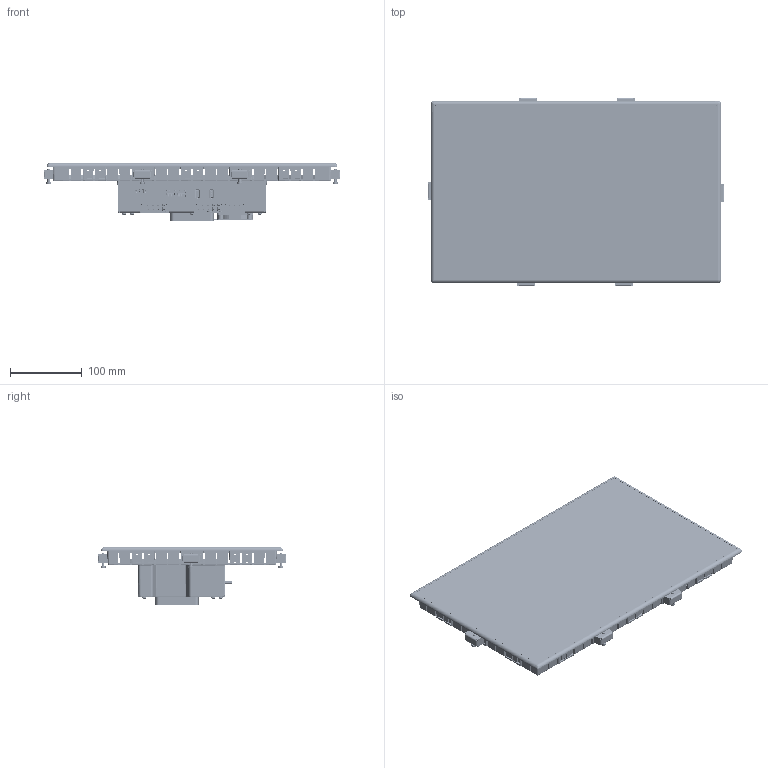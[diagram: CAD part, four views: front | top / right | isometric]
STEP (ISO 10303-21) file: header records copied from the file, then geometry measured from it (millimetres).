
FILE_DESCRIPTION(/* description */ (''),/* implementation_level */ '2;1');
FILE_NAME(/* name */ 'B-Primis DC-Pi Prime 15_S04.stp',/* time_stamp */ '2025-12-02T14:07:38+01:00',/* author */ ('Werres'),/* organization */ (''),/* preprocessor_version */ 'ST-DEVELOPER v20.1',/* originating_system */ 'Autodesk Inventor 2026',/* authorisation */ '');
FILE_SCHEMA (('AUTOMOTIVE_DESIGN { 1 0 10303 214 3 1 1 }'));
Products named in the file (1): B-Primis DC-Pi Prime 15_S04_Vereinfacht_
Bounding box: 412.98 x 262.01 x 80.8 mm (x, y, z)
Volume: 720918.6 mm3; surface area: 721290.9 mm2
Topology: 13 solids, 84 shells, 13720 faces, 39335 edges, 25604 vertices
Faces by surface type: plane 9654, cylinder 3475, cone 353, bspline 118, torus 75, sphere 45
Full cylindrical faces by diameter (mm): 0.6 x34, 0.65 x2, 0.783 x4, 0.9 x1, 1 x6, 1.2 x1, 1.4 x48, 1.8 x16, 2 x2, 2.2 x2, 2.3 x13, 2.459 x6, 3 x21, 3.1 x5, 3.3 x4, 3.4 x3, 3.5 x14, 3.7 x4, 4 x21, 4.3 x10, 4.9 x6, 5.5 x1, 6 x15, 6.5 x1, 7 x6, 8 x4, 15 x1, 47.5 x1
Entity records: 463644 total; most frequent: CARTESIAN_POINT 97604, ORIENTED_EDGE 78674, DIRECTION 73790, EDGE_CURVE 39337, LINE 29834, VECTOR 29834, VERTEX_POINT 25604, AXIS2_PLACEMENT_3D 21978
